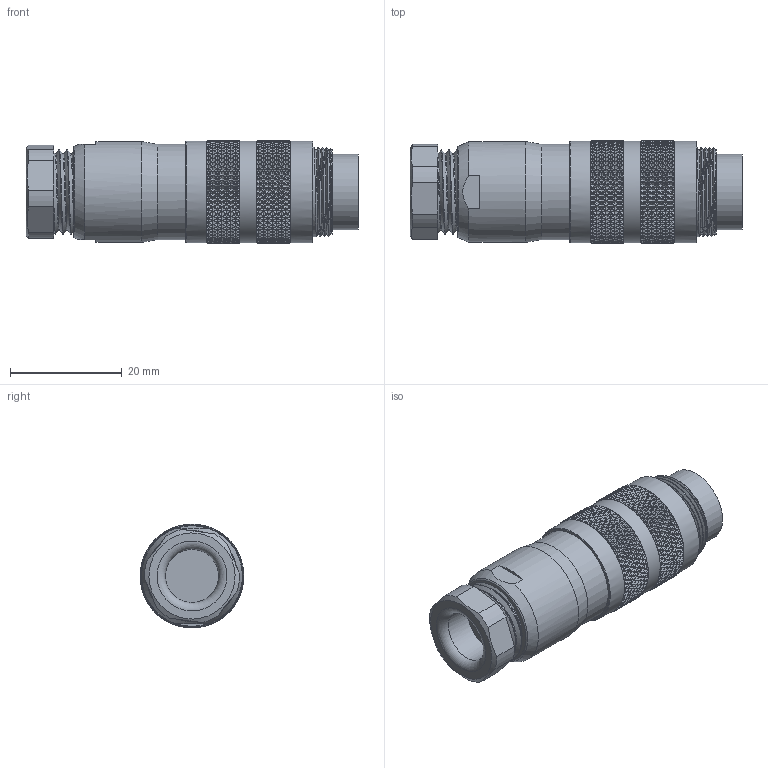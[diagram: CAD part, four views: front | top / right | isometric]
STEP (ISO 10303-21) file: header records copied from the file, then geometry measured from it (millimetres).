
FILE_DESCRIPTION(/* description */ (''),/* implementation_level */ '2;1');
FILE_NAME(/* name */ '99-5629-15-12-001_01.stp',/* time_stamp */ '2023-03-22T11:52:00+01:00',/* author */ (''),/* organization */ (''),/* preprocessor_version */ 'ST-DEVELOPER v16',/* originating_system */ 'SIEMENS PLM Software NX 11.0',/* authorisation */ '');
FILE_SCHEMA (('AUTOMOTIVE_DESIGN { 1 0 10303 214 3 1 1 1 }'));
Products named in the file (1): sgro42247570x2bp
Bounding box: 59.3 x 18.5 x 18.5 mm (x, y, z)
Volume: 12601.5 mm3; surface area: 4895.7 mm2
Topology: 1 solids, 1 shells, 4907 faces, 11160 edges, 6880 vertices
Faces by surface type: bspline 3786, plane 423, cone 385, cylinder 298, sphere 12, torus 3
Full cylindrical faces by diameter (mm): 1 x12, 9.5 x1, 13.5 x1, 15.08 x4, 17 x1, 17.05 x1, 18 x1, 18.15 x3, 18.5 x2
Entity records: 169136 total; most frequent: CARTESIAN_POINT 88678, ORIENTED_EDGE 22108, EDGE_CURVE 11054, B_SPLINE_CURVE_WITH_KNOTS 9342, VERTEX_POINT 6837, EDGE_LOOP 5587, DIRECTION 5561, ADVANCED_FACE 4903
